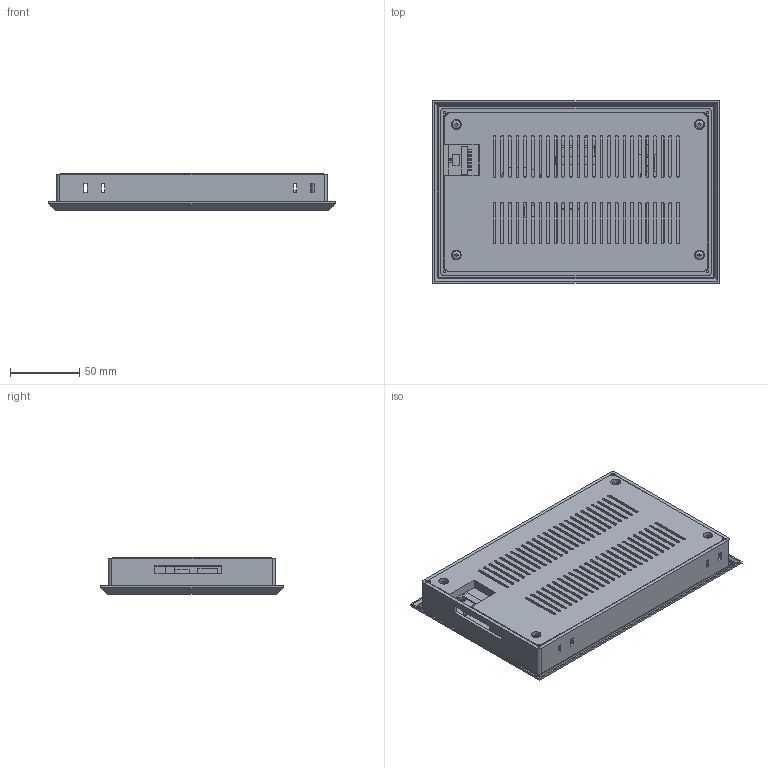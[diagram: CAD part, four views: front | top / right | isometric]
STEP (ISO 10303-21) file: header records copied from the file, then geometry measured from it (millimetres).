
FILE_DESCRIPTION(/* description */ (''),/* implementation_level */ '2;1');
FILE_NAME(/* name */ 'VTc070S34_stp.stp',/* time_stamp */ '2025-02-15T11:28:03+08:00',/* author */ (''),/* organization */ (''),/* preprocessor_version */ 'ST-DEVELOPER v16',/* originating_system */ 'SIEMENS PLM Software NX 10.0',/* authorisation */ '');
FILE_SCHEMA (('AP203_CONFIGURATION_CONTROLLED_3D_DESIGN_OF_MECHANICAL_PARTS_AND_ASSEMBLIES_MIM_LF { 1 0 10303 403 2 1 2}'));
Products named in the file (5): M3X6612612; SDWa070Sx3_stp613613; luosi_MODEL615614; 7cunhougai_stp614615; VTc070S34_stp
Assembly tree (7 placements, depth 4):
  VTc070S34_stp
    7cunhougai_stp614615
      luosi_MODEL615614  x4
        M3X6612612
    SDWa070Sx3_stp613613
Bounding box: 206.5 x 131.4 x 26.2 mm (x, y, z)
Volume: 365109.1 mm3; surface area: 281377.7 mm2
Topology: 282 solids, 282 shells, 2452 faces, 5538 edges, 3683 vertices
Faces by surface type: plane 2129, cone 124, cylinder 103, bspline 80, extrusion 8, sphere 4, torus 4
Full cylindrical faces by diameter (mm): 2 x4, 2.874 x4, 3 x4, 3.2 x12, 5.6 x4, 7 x4
Entity records: 70118 total; most frequent: CARTESIAN_POINT 11619, ORIENTED_EDGE 10458, DIRECTION 10295, EDGE_CURVE 5229, VECTOR 4739, LINE 4731, VERTEX_POINT 3502, AXIS2_PLACEMENT_3D 2778
